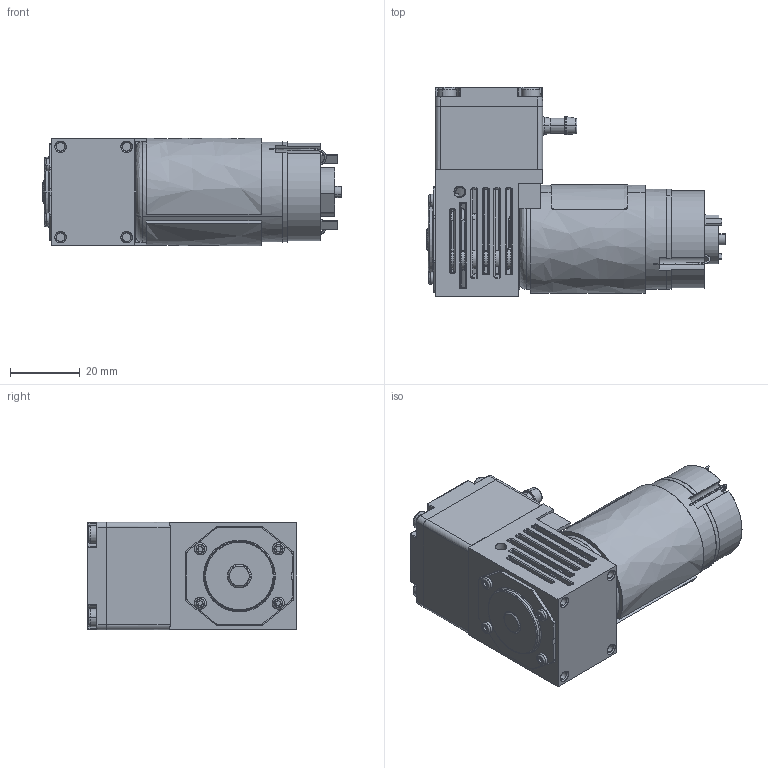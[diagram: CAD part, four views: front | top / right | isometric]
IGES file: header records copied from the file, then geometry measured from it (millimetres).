
Start section: SolidWorks IGES file using analytic representation for surfaces
Global section: file name: P:\Post\_Hoy\64100011-18.IGS; native system: SolidWorks 2018; preprocessor: SolidWorks 2018; author: hxs2830; date: 191113.110850; units: millimetre
Bounding box: 85.7 x 60.2 x 31 mm (x, y, z)
Surface area: 18129.5 mm2 (no closed solid volume)
Topology: 0 solids, 0 shells, 1049 faces, 9576 edges, 9510 vertices
Faces by surface type: revolution 526, bspline 523
